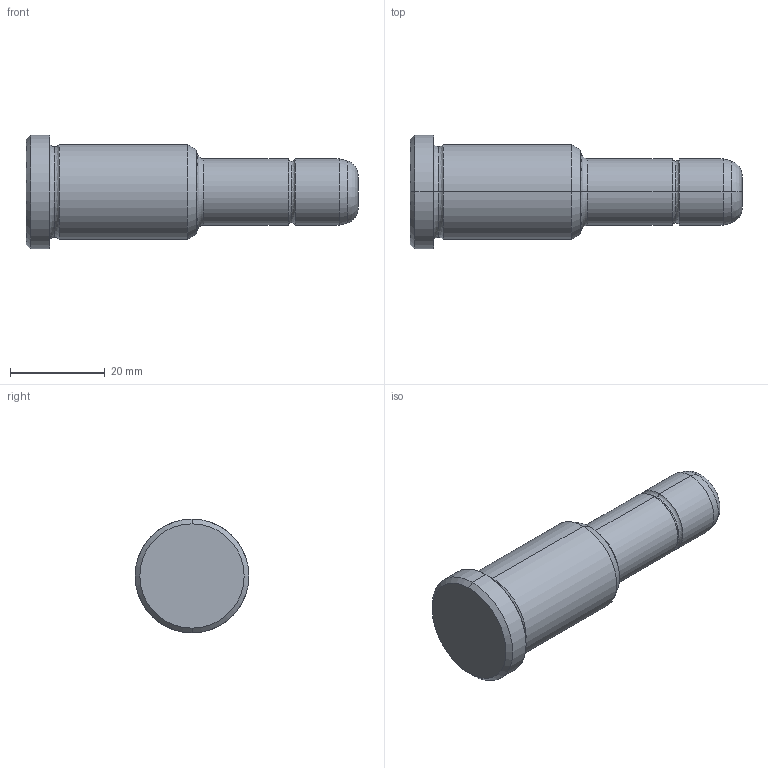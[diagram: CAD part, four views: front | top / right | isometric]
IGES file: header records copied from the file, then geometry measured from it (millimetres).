
Start section: START RECORD GO HERE.
Global section: file name: 351-14X36X70.igs; native system: DASSAULT SYSTEMES CATIA V5 R20 - www.3ds.com; preprocessor: CATIA Version 5 Release 20 ; author: Utente; organization: NB04-ASUS; date: 20210818.124735; units: millimetre
Bounding box: 70 x 24 x 24 mm (x, y, z)
Surface area: 4546.5 mm2 (no closed solid volume)
Topology: 0 solids, 0 shells, 30 faces, 172 edges, 172 vertices
Faces by surface type: revolution 26, plane 4
